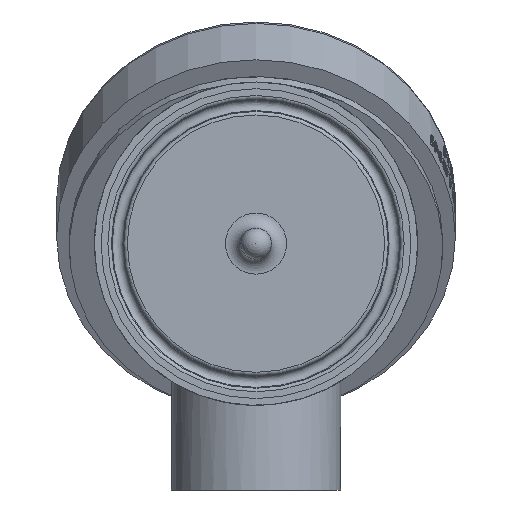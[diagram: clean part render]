
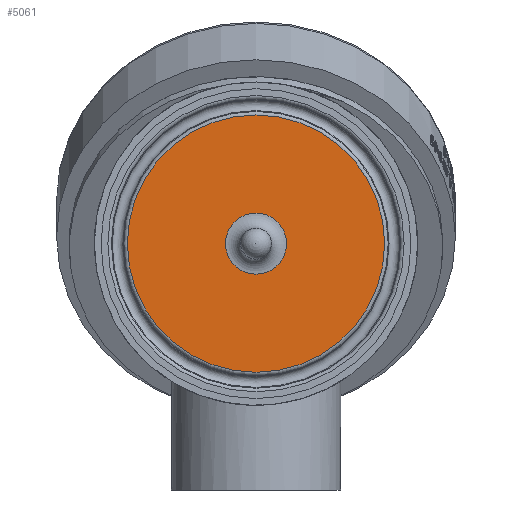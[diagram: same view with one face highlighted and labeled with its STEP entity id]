
A CAD part, front view. The second image highlights one B-rep face of the part: STEP entity #5061.
In plain terms, the highlighted planar face has unit normal (0, -1, 0).
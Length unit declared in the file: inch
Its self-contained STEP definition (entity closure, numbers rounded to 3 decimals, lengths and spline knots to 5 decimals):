
#1276=PLANE($,#5376);
#1437=FACE_BOUND($,#1815,.T.);
#1521=FACE_OUTER_BOUND($,#1814,.T.);
#1814=EDGE_LOOP($,(#3558));
#1815=EDGE_LOOP($,(#3559));
#2176=CIRCLE($,#5375,0.24521);
#2177=CIRCLE($,#5377,1.033);
#2310=VERTEX_POINT($,#6726);
#2311=VERTEX_POINT($,#6729);
#2817=EDGE_CURVE($,#2310,#2310,#2176,.T.);
#2818=EDGE_CURVE($,#2311,#2311,#2177,.T.);
#3558=ORIENTED_EDGE($,*,*,#2818,.F.);
#3559=ORIENTED_EDGE($,*,*,#2817,.F.);
#5061=ADVANCED_FACE($,(#1521,#1437),#1276,.T.);
#5375=AXIS2_PLACEMENT_3D($,#6727,#5746,#5747);
#5376=AXIS2_PLACEMENT_3D($,#6728,#5748,#5749);
#5377=AXIS2_PLACEMENT_3D($,#6730,#5750,#5751);
#5746=DIRECTION('center_axis',(0.,-1.,0.));
#5747=DIRECTION('ref_axis',(1.,0.,0.));
#5748=DIRECTION('center_axis',(0.,-1.,0.));
#5749=DIRECTION('ref_axis',(0.,0.,-1.));
#5750=DIRECTION('center_axis',(0.,1.,0.));
#5751=DIRECTION('ref_axis',(-1.,0.,0.));
#6726=CARTESIAN_POINT('',(4.90449,-2.68593,2.9697));
#6727=CARTESIAN_POINT('Origin',(5.1497,-2.68593,2.9697));
#6728=CARTESIAN_POINT('Origin',(5.27471,-2.68593,2.9697));
#6729=CARTESIAN_POINT('',(6.18271,-2.68593,2.9697));
#6730=CARTESIAN_POINT('Origin',(5.1497,-2.68593,2.9697));
